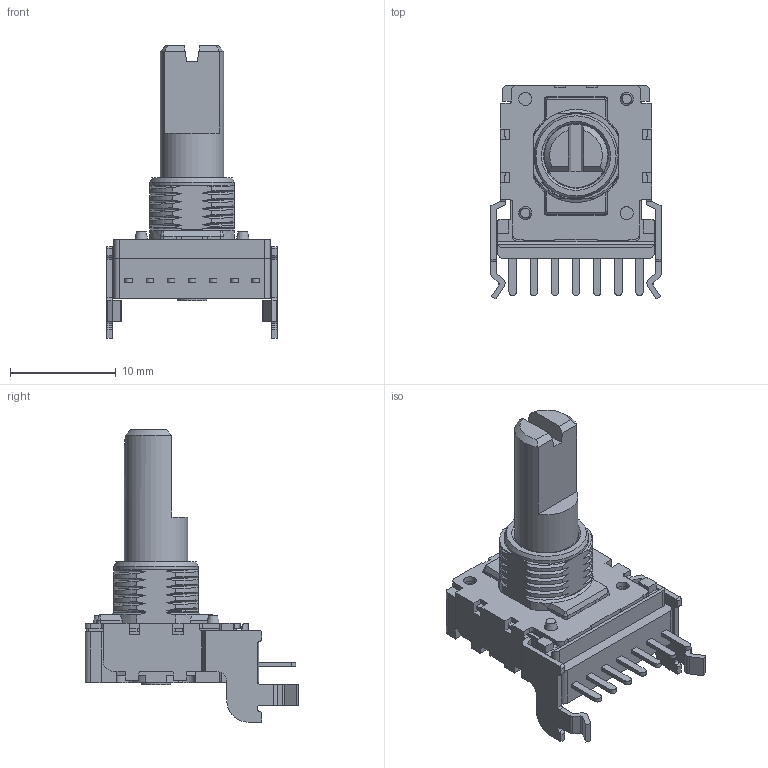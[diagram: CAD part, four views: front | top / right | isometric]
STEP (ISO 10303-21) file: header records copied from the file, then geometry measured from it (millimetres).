
FILE_DESCRIPTION((''),'2;1');
FILE_NAME('\\Forward-ks-ad\開發專區\高雄廠設計課\設計機種開發作業\量產機種專案\絕緣軸\RK14K\RK14K-3D圖\K142F17Z\K142F17Z.stp','2019-04-26T17:34:21',('kak13012'),(''),'Autodesk Inventor 2010','Autodesk Inventor 2010','');
FILE_SCHEMA(('AUTOMOTIVE_DESIGN { 1 0 10303 214 1 1 1 1 }'));
Length unit declared in the file: millimetre
Products named in the file (1): K142F17Z
Bounding box: 16.1 x 20.2 x 27.65 mm (x, y, z)
Volume: 1473.5 mm3; surface area: 2655.2 mm2
Topology: 1 solids, 1 shells, 686 faces, 1948 edges, 1244 vertices
Faces by surface type: plane 376, cylinder 180, bspline 110, cone 19, torus 1
Full cylindrical faces by diameter (mm): 0.3 x4, 1.2 x6, 1.23 x10, 2.81 x2, 3 x1, 6 x1, 6.11 x1, 6.12 x1, 7.2 x1, 7.98 x1
Entity records: 24724 total; most frequent: CARTESIAN_POINT 7411, ORIENTED_EDGE 3826, DIRECTION 3262, EDGE_CURVE 1913, VECTOR 1308, LINE 1308, VERTEX_POINT 1243, AXIS2_PLACEMENT_3D 977
